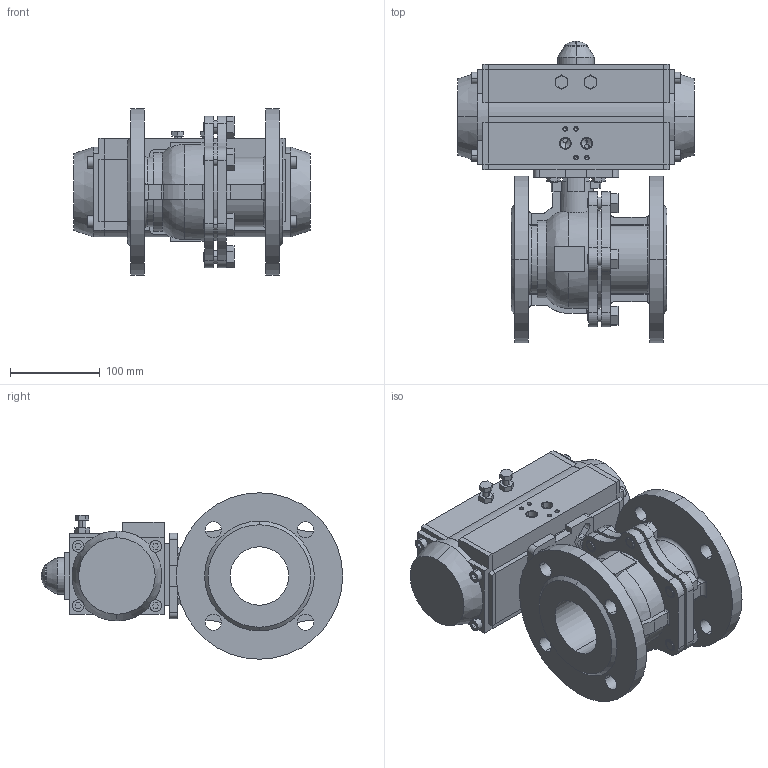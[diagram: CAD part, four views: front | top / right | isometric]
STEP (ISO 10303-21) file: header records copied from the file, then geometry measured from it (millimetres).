
FILE_DESCRIPTION((''),'2;1');
FILE_NAME('BV-22F_RPA_ASM','2024-09-11T',('USER'),(''),'PRO/ENGINEER BY PARAMETRIC TECHNOLOGY CORPORATION, 2011220','PRO/ENGINEER BY PARAMETRIC TECHNOLOGY CORPORATION, 2011220','');
FILE_SCHEMA(('CONFIG_CONTROL_DESIGN'));
Length unit declared in the file: millimetre
Products named in the file (12): KORPUS_KRAN_FL; BOLT_M14X25; SB_KRAN_FL_ASM; KORPUS_PNEVMOPRIVOD; KOLCO_25_GOST13942; KRISKA_VERX; VINT; KRISKA_LEFT; KRISKA_RIGHT; SB_PNEVMOPRIVOD_ASM; B-7798-M8-16; BV-22F_RPA_ASM
Assembly tree (19 placements, depth 3):
  BV-22F_RPA_ASM
    SB_KRAN_FL_ASM
      KORPUS_KRAN_FL
      BOLT_M14X25  x6
    SB_PNEVMOPRIVOD_ASM
      KORPUS_PNEVMOPRIVOD
      KOLCO_25_GOST13942
      KRISKA_VERX
      VINT
      KRISKA_LEFT
      KRISKA_RIGHT
    B-7798-M8-16  x4
Bounding box: 263 x 334.95 x 185 mm (x, y, z)
Volume: 4289748.3 mm3; surface area: 484962 mm2
Topology: 17 solids, 55 shells, 846 faces, 2205 edges, 1429 vertices
Faces by surface type: plane 429, cylinder 315, cone 78, torus 12, bspline 10, sphere 2
Entity records: 23434 total; most frequent: CARTESIAN_POINT 4856, DIRECTION 3999, ORIENTED_EDGE 3618, EDGE_CURVE 1871, AXIS2_PLACEMENT_3D 1438, VERTEX_POINT 1241, VECTOR 1123, LINE 1123
